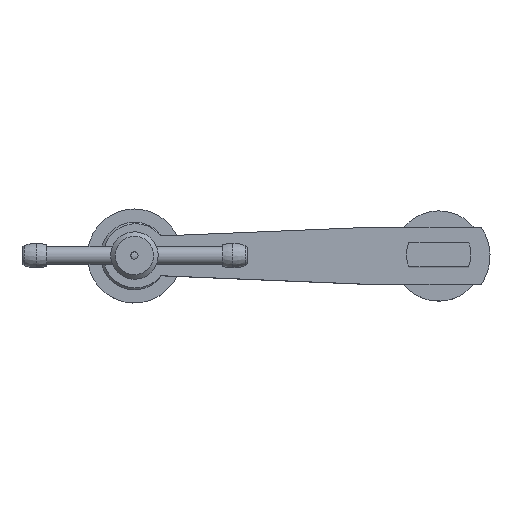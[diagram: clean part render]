
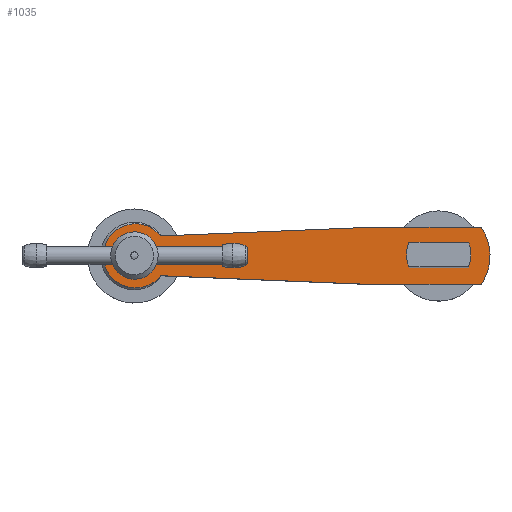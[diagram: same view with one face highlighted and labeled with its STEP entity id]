
A CAD part, top view. The second image highlights one B-rep face of the part: STEP entity #1035.
In plain terms, the highlighted free-form (B-spline) face has degree [1, 1] with [2, 2] control points.
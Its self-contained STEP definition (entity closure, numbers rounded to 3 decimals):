
#980=CARTESIAN_POINT('',(-164.656,-30.029,40.));
#981=CARTESIAN_POINT('',(-164.656,171.189,40.));
#982=CARTESIAN_POINT('',(36.561,-30.029,40.));
#983=CARTESIAN_POINT('',(36.561,171.189,40.));
#984=B_SPLINE_SURFACE_WITH_KNOTS('',1,1,((#980,#981),(#982,#983)),.PLANE_SURF.,.F.,.F.,.U.,(2,2),(2,2),(0.,1.),(0.,1.),.UNSPECIFIED.);
#985=CARTESIAN_POINT('',(18.866,-12.7,40.));
#986=VERTEX_POINT('',#985);
#987=CARTESIAN_POINT('',(18.866,12.7,40.));
#988=VERTEX_POINT('',#987);
#989=CARTESIAN_POINT('',(18.866,-12.7,40.));
#990=CARTESIAN_POINT('',(27.415,0.,40.));
#991=CARTESIAN_POINT('',(18.866,12.7,40.));
#992=(BOUNDED_CURVE()B_SPLINE_CURVE(2,(#989,#990,#991),.CIRCULAR_ARC.,.F.,.U.)B_SPLINE_CURVE_WITH_KNOTS((3,3),(0.,1.),.UNSPECIFIED.)CURVE()GEOMETRIC_REPRESENTATION_ITEM()RATIONAL_B_SPLINE_CURVE((1.,0.83,1.))REPRESENTATION_ITEM(''));
#993=EDGE_CURVE('',#986,#988,#992,.T.);
#994=ORIENTED_EDGE('',*,*,#993,.T.);
#995=CARTESIAN_POINT('',(-29.762,12.7,40.));
#996=VERTEX_POINT('',#995);
#997=CARTESIAN_POINT('',(18.866,12.7,40.));
#998=CARTESIAN_POINT('',(-29.762,12.7,40.));
#999=B_SPLINE_CURVE_WITH_KNOTS('',1,(#997,#998),.POLYLINE_FORM.,.F.,.U.,(2,2),(0.,1.),.UNSPECIFIED.);
#1000=EDGE_CURVE('',#988,#996,#999,.T.);
#1001=ORIENTED_EDGE('',*,*,#1000,.T.);
#1002=CARTESIAN_POINT('',(-123.382,8.805,40.));
#1003=VERTEX_POINT('',#1002);
#1004=CARTESIAN_POINT('',(-29.762,12.7,40.));
#1005=CARTESIAN_POINT('',(-123.382,8.805,40.));
#1006=B_SPLINE_CURVE_WITH_KNOTS('',1,(#1004,#1005),.POLYLINE_FORM.,.F.,.U.,(2,2),(0.,1.),.UNSPECIFIED.);
#1007=EDGE_CURVE('',#996,#1003,#1006,.T.);
#1008=ORIENTED_EDGE('',*,*,#1007,.T.);
#1009=CARTESIAN_POINT('',(-123.393,-8.805,40.));
#1010=VERTEX_POINT('',#1009);
#1011=CARTESIAN_POINT('',(-123.382,8.805,40.));
#1012=CARTESIAN_POINT('',(-132.9,20.895,40.));
#1013=CARTESIAN_POINT('',(-144.205,10.458,40.));
#1014=CARTESIAN_POINT('',(-155.51,0.02,40.));
#1015=CARTESIAN_POINT('',(-144.218,-10.431,40.));
#1016=CARTESIAN_POINT('',(-132.926,-20.882,40.));
#1017=CARTESIAN_POINT('',(-123.393,-8.805,40.));
#1018=(BOUNDED_CURVE()B_SPLINE_CURVE(2,(#1011,#1012,#1013,#1014,#1015,#1016,#1017),.CIRCULAR_ARC.,.F.,.U.)B_SPLINE_CURVE_WITH_KNOTS((3,2,2,3),(0.,0.333,0.667,1.),.UNSPECIFIED.)CURVE()GEOMETRIC_REPRESENTATION_ITEM()RATIONAL_B_SPLINE_CURVE((1.,0.679,1.,0.679,1.,0.679,1.))REPRESENTATION_ITEM(''));
#1019=EDGE_CURVE('',#1003,#1010,#1018,.T.);
#1020=ORIENTED_EDGE('',*,*,#1019,.T.);
#1021=CARTESIAN_POINT('',(-29.762,-12.7,40.));
#1022=VERTEX_POINT('',#1021);
#1023=CARTESIAN_POINT('',(-123.393,-8.805,40.));
#1024=CARTESIAN_POINT('',(-29.762,-12.7,40.));
#1025=B_SPLINE_CURVE_WITH_KNOTS('',1,(#1023,#1024),.POLYLINE_FORM.,.F.,.U.,(2,2),(0.,1.),.UNSPECIFIED.);
#1026=EDGE_CURVE('',#1010,#1022,#1025,.T.);
#1027=ORIENTED_EDGE('',*,*,#1026,.T.);
#1028=CARTESIAN_POINT('',(-29.762,-12.7,40.));
#1029=CARTESIAN_POINT('',(18.866,-12.7,40.));
#1030=B_SPLINE_CURVE_WITH_KNOTS('',1,(#1028,#1029),.POLYLINE_FORM.,.F.,.U.,(2,2),(0.,1.),.UNSPECIFIED.);
#1031=EDGE_CURVE('',#1022,#986,#1030,.T.);
#1032=ORIENTED_EDGE('',*,*,#1031,.T.);
#1033=EDGE_LOOP('',(#994,#1001,#1008,#1020,#1027,#1032));
#1034=FACE_OUTER_BOUND('',#1033,.T.);
#1035=ADVANCED_FACE('',(#1034),#984,.T.);
